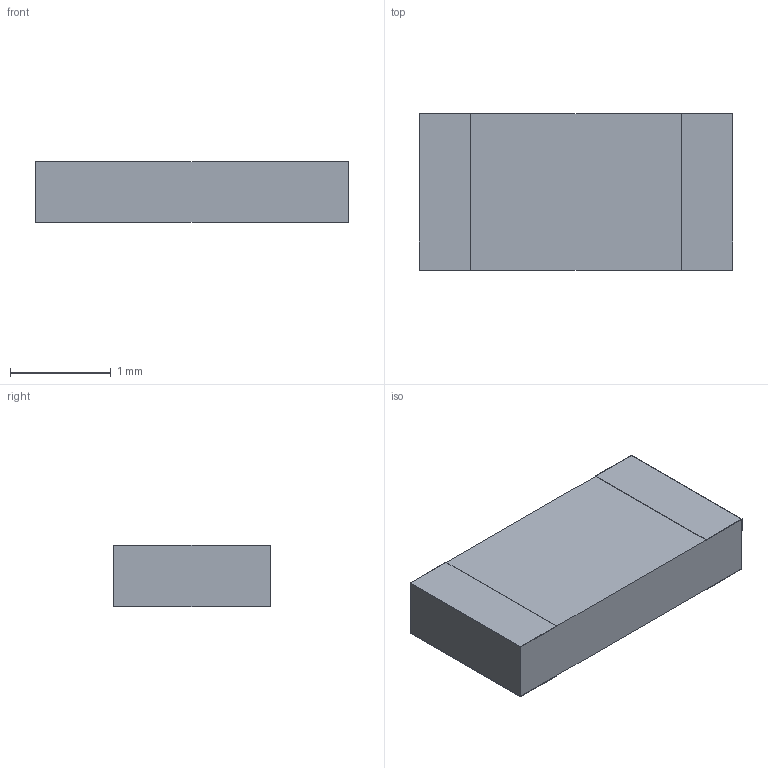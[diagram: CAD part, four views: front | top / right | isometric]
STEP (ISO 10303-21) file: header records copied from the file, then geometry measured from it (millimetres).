
FILE_DESCRIPTION(/* description */ (''),/* implementation_level */ '2;1');
FILE_NAME(/* name */ 'S2F1206.stp',/* time_stamp */ '2025-05-05T11:06:51+02:00',/* author */ ('jrancurel'),/* organization */ ('unknown'),/* preprocessor_version */ 'ST-DEVELOPER v19.2',/* originating_system */ 'Autodesk Inventor 2023',/* authorisation */ '');
FILE_SCHEMA (('AUTOMOTIVE_DESIGN { 1 0 10303 214 3 1 1 }'));
Length unit declared in the file: millimetre
Products named in the file (1): S2F1206
Bounding box: 3.11 x 1.55 x 0.61 mm (x, y, z)
Volume: 2.9 mm3; surface area: 25.2 mm2
Topology: 3 solids, 3 shells, 26 faces, 60 edges, 40 vertices
Faces by surface type: plane 26
Entity records: 783 total; most frequent: CARTESIAN_POINT 127, ORIENTED_EDGE 120, DIRECTION 114, LINE 60, VECTOR 60, EDGE_CURVE 60, VERTEX_POINT 40, AXIS2_PLACEMENT_3D 27
